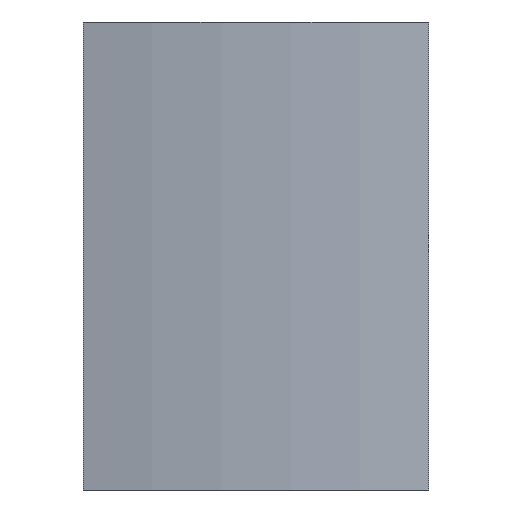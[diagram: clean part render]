
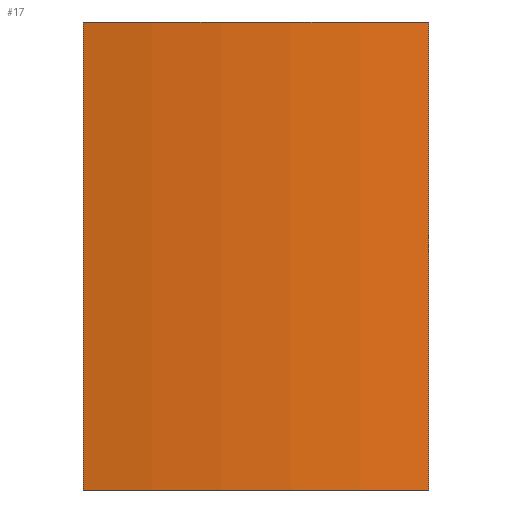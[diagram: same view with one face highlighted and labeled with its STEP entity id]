
A CAD part, left-side view. The second image highlights one B-rep face of the part: STEP entity #17.
In plain terms, the highlighted cylindrical face has radius 7.65 mm (diameter 15.3 mm), a partial arc.
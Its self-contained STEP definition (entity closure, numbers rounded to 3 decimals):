
#17 = ADVANCED_FACE('',(#18),#33,.T.);
#18 = FACE_BOUND('',#19,.T.);
#19 = EDGE_LOOP('',(#20,#56,#82,#111));
#20 = ORIENTED_EDGE('',*,*,#21,.F.);
#21 = EDGE_CURVE('',#22,#24,#26,.T.);
#22 = VERTEX_POINT('',#23);
#23 = CARTESIAN_POINT('',(-7.467,1.663,6.55));
#24 = VERTEX_POINT('',#25);
#25 = CARTESIAN_POINT('',(-7.467,-1.663,6.55));
#26 = SURFACE_CURVE('',#27,(#32,#44),.PCURVE_S1.);
#27 = CIRCLE('',#28,7.65);
#28 = AXIS2_PLACEMENT_3D('',#29,#30,#31);
#29 = CARTESIAN_POINT('',(0.,0.,6.55));
#30 = DIRECTION('',(0.,0.,1.));
#31 = DIRECTION('',(1.,0.,-0.));
#32 = PCURVE('',#33,#38);
#33 = CYLINDRICAL_SURFACE('',#34,7.65);
#34 = AXIS2_PLACEMENT_3D('',#35,#36,#37);
#35 = CARTESIAN_POINT('',(0.,0.,2.05));
#36 = DIRECTION('',(0.,0.,1.));
#37 = DIRECTION('',(1.,0.,-0.));
#38 = DEFINITIONAL_REPRESENTATION('',(#39),#43);
#39 = LINE('',#40,#41);
#40 = CARTESIAN_POINT('',(0.,4.5));
#41 = VECTOR('',#42,1.);
#42 = DIRECTION('',(1.,0.));
#43 = ( GEOMETRIC_REPRESENTATION_CONTEXT(2) 
PARAMETRIC_REPRESENTATION_CONTEXT() REPRESENTATION_CONTEXT('2D SPACE',''
  ) );
#44 = PCURVE('',#45,#50);
#45 = PLANE('',#46);
#46 = AXIS2_PLACEMENT_3D('',#47,#48,#49);
#47 = CARTESIAN_POINT('',(0.,0.,6.55));
#48 = DIRECTION('',(0.,0.,1.));
#49 = DIRECTION('',(1.,0.,-0.));
#50 = DEFINITIONAL_REPRESENTATION('',(#51),#55);
#51 = CIRCLE('',#52,7.65);
#52 = AXIS2_PLACEMENT_2D('',#53,#54);
#53 = CARTESIAN_POINT('',(0.,0.));
#54 = DIRECTION('',(1.,0.));
#55 = ( GEOMETRIC_REPRESENTATION_CONTEXT(2) 
PARAMETRIC_REPRESENTATION_CONTEXT() REPRESENTATION_CONTEXT('2D SPACE',''
  ) );
#56 = ORIENTED_EDGE('',*,*,#57,.F.);
#57 = EDGE_CURVE('',#58,#22,#60,.T.);
#58 = VERTEX_POINT('',#59);
#59 = CARTESIAN_POINT('',(-7.467,1.663,2.05));
#60 = SURFACE_CURVE('',#61,(#65,#71),.PCURVE_S1.);
#61 = LINE('',#62,#63);
#62 = CARTESIAN_POINT('',(-7.467,1.663,2.05));
#63 = VECTOR('',#64,1.);
#64 = DIRECTION('',(0.,0.,1.));
#65 = PCURVE('',#33,#66);
#66 = DEFINITIONAL_REPRESENTATION('',(#67),#70);
#67 = B_SPLINE_CURVE_WITH_KNOTS('',1,(#68,#69),.UNSPECIFIED.,.F.,.F.,(2,
    2),(0.,4.5),.PIECEWISE_BEZIER_KNOTS.);
#68 = CARTESIAN_POINT('',(2.922,0.));
#69 = CARTESIAN_POINT('',(2.922,4.5));
#70 = ( GEOMETRIC_REPRESENTATION_CONTEXT(2) 
PARAMETRIC_REPRESENTATION_CONTEXT() REPRESENTATION_CONTEXT('2D SPACE',''
  ) );
#71 = PCURVE('',#72,#77);
#72 = PLANE('',#73);
#73 = AXIS2_PLACEMENT_3D('',#74,#75,#76);
#74 = CARTESIAN_POINT('',(0.,0.,2.04));
#75 = DIRECTION('',(-0.217,-0.976,0.));
#76 = DIRECTION('',(-0.976,0.217,0.));
#77 = DEFINITIONAL_REPRESENTATION('',(#78),#81);
#78 = B_SPLINE_CURVE_WITH_KNOTS('',1,(#79,#80),.UNSPECIFIED.,.F.,.F.,(2,
    2),(0.,4.5),.PIECEWISE_BEZIER_KNOTS.);
#79 = CARTESIAN_POINT('',(7.65,-0.01));
#80 = CARTESIAN_POINT('',(7.65,-4.51));
#81 = ( GEOMETRIC_REPRESENTATION_CONTEXT(2) 
PARAMETRIC_REPRESENTATION_CONTEXT() REPRESENTATION_CONTEXT('2D SPACE',''
  ) );
#82 = ORIENTED_EDGE('',*,*,#83,.T.);
#83 = EDGE_CURVE('',#58,#84,#86,.T.);
#84 = VERTEX_POINT('',#85);
#85 = CARTESIAN_POINT('',(-7.467,-1.663,2.05));
#86 = SURFACE_CURVE('',#87,(#92,#99),.PCURVE_S1.);
#87 = CIRCLE('',#88,7.65);
#88 = AXIS2_PLACEMENT_3D('',#89,#90,#91);
#89 = CARTESIAN_POINT('',(0.,0.,2.05));
#90 = DIRECTION('',(0.,0.,1.));
#91 = DIRECTION('',(1.,0.,-0.));
#92 = PCURVE('',#33,#93);
#93 = DEFINITIONAL_REPRESENTATION('',(#94),#98);
#94 = LINE('',#95,#96);
#95 = CARTESIAN_POINT('',(0.,0.));
#96 = VECTOR('',#97,1.);
#97 = DIRECTION('',(1.,0.));
#98 = ( GEOMETRIC_REPRESENTATION_CONTEXT(2) 
PARAMETRIC_REPRESENTATION_CONTEXT() REPRESENTATION_CONTEXT('2D SPACE',''
  ) );
#99 = PCURVE('',#100,#105);
#100 = PLANE('',#101);
#101 = AXIS2_PLACEMENT_3D('',#102,#103,#104);
#102 = CARTESIAN_POINT('',(0.,0.,2.05));
#103 = DIRECTION('',(0.,0.,1.));
#104 = DIRECTION('',(1.,0.,-0.));
#105 = DEFINITIONAL_REPRESENTATION('',(#106),#110);
#106 = CIRCLE('',#107,7.65);
#107 = AXIS2_PLACEMENT_2D('',#108,#109);
#108 = CARTESIAN_POINT('',(0.,0.));
#109 = DIRECTION('',(1.,0.));
#110 = ( GEOMETRIC_REPRESENTATION_CONTEXT(2) 
PARAMETRIC_REPRESENTATION_CONTEXT() REPRESENTATION_CONTEXT('2D SPACE',''
  ) );
#111 = ORIENTED_EDGE('',*,*,#112,.T.);
#112 = EDGE_CURVE('',#84,#24,#113,.T.);
#113 = SURFACE_CURVE('',#114,(#118,#124),.PCURVE_S1.);
#114 = LINE('',#115,#116);
#115 = CARTESIAN_POINT('',(-7.467,-1.663,2.05));
#116 = VECTOR('',#117,1.);
#117 = DIRECTION('',(0.,0.,1.));
#118 = PCURVE('',#33,#119);
#119 = DEFINITIONAL_REPRESENTATION('',(#120),#123);
#120 = B_SPLINE_CURVE_WITH_KNOTS('',1,(#121,#122),.UNSPECIFIED.,.F.,.F.,
  (2,2),(0.,4.5),.PIECEWISE_BEZIER_KNOTS.);
#121 = CARTESIAN_POINT('',(3.361,0.));
#122 = CARTESIAN_POINT('',(3.361,4.5));
#123 = ( GEOMETRIC_REPRESENTATION_CONTEXT(2) 
PARAMETRIC_REPRESENTATION_CONTEXT() REPRESENTATION_CONTEXT('2D SPACE',''
  ) );
#124 = PCURVE('',#125,#130);
#125 = PLANE('',#126);
#126 = AXIS2_PLACEMENT_3D('',#127,#128,#129);
#127 = CARTESIAN_POINT('',(-22.401,-4.99,2.04));
#128 = DIRECTION('',(-0.217,0.976,0.));
#129 = DIRECTION('',(0.976,0.217,0.));
#130 = DEFINITIONAL_REPRESENTATION('',(#131),#134);
#131 = B_SPLINE_CURVE_WITH_KNOTS('',1,(#132,#133),.UNSPECIFIED.,.F.,.F.,
  (2,2),(0.,4.5),.PIECEWISE_BEZIER_KNOTS.);
#132 = CARTESIAN_POINT('',(15.3,-0.01));
#133 = CARTESIAN_POINT('',(15.3,-4.51));
#134 = ( GEOMETRIC_REPRESENTATION_CONTEXT(2) 
PARAMETRIC_REPRESENTATION_CONTEXT() REPRESENTATION_CONTEXT('2D SPACE',''
  ) );
